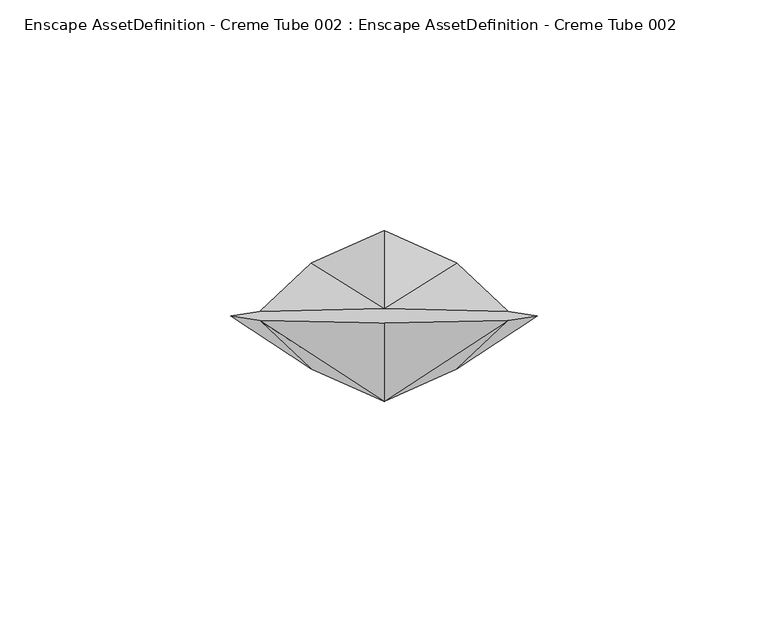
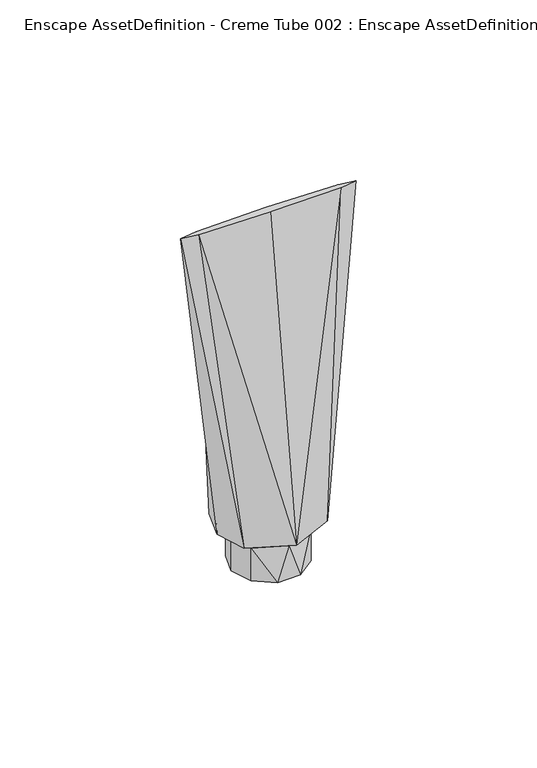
"""IFC4 building model written with IfcOpenShell, lengths in millimetres: geographic element geometry, Enscape AssetDefinition - Creme Tube 002 : Enscape AssetDefinition - Creme Tube 002."""

from ifc_helpers import new_model, si_unit, origin, place, context, project, spatial, triangles, source, transform, mapped, element, save


def enscape_assetdefinition_creme_tube_002_enscape_c31c35f7(model_context):
    return source(origin(), model_context, "Body", "Tessellation", [
        triangles([(15.7944597, 11.475091, 16.4672657), (14.1496439, 0.0, 0.0), (14.1496439, 0.0, 13.1869824), (19.5227364, 0.0, 16.4672657), (26.9179018, 0.970791, 139.6788379), (15.7944597, -11.475091, 16.4672657), (33.2723559, 0.0, 139.6788379), (11.4474469, -8.3171744, 13.1869824), (0.0, -18.567393, 16.4672657), (26.9179018, -0.970791, 139.6788379), (0.0, 1.571234, 139.6788379), (0.0, -1.571234, 139.6788379), (-26.9179018, -0.970791, 139.6788379), (-26.9179018, 0.970791, 139.6788379), (-15.7944597, 11.475091, 16.4672657), (-33.2723559, 0.0, 139.6788379), (-15.7944597, -11.475091, 16.4672657), (-19.5227364, 0.0, 16.4672657), (-14.1496439, 0.0, 13.1869824), (-11.4474469, 8.3171744, 13.1869824), (-11.4474469, 8.3171744, 0.0), (-14.1496439, 0.0, 0.0), (0.0, 18.567393, 16.4672657), (0.0, 13.4573238, 13.1869824), (-11.4474469, -8.3171744, 0.0), (-4.3726247, -13.4573238, 0.0), (-4.3726247, 13.4573238, 0.0), (11.4474469, 8.3171744, 0.0), (4.3726247, 13.4573238, 0.0), (11.4474469, -8.3171744, 0.0), (4.3726247, -13.4573238, 0.0), (0.0, -13.4573238, 13.1869824), (-11.4474469, -8.3171744, 13.1869824), (11.4474469, 8.3171744, 13.1869824)], [[23, 1, 34], [33, 25, 26], [9, 17, 33], [26, 32, 33], [33, 32, 9], [32, 26, 31], [8, 32, 31], [9, 32, 8], [30, 31, 26], [31, 30, 8], [8, 30, 2], [30, 26, 28], [2, 30, 28], [34, 28, 29], [29, 24, 34], [34, 24, 23], [27, 29, 28], [24, 29, 27], [26, 22, 28], [22, 27, 28], [26, 25, 22], [22, 25, 33], [22, 21, 27], [27, 21, 20], [20, 24, 27], [23, 24, 20], [33, 19, 22], [21, 22, 19], [19, 20, 21], [20, 15, 23], [15, 20, 19], [18, 19, 33], [33, 17, 18], [19, 18, 15], [16, 18, 17], [17, 13, 16], [13, 17, 9], [14, 16, 13], [14, 15, 18], [18, 16, 14], [11, 23, 15], [15, 14, 11], [1, 23, 11], [14, 13, 12], [12, 11, 14], [9, 12, 13], [10, 12, 9], [12, 10, 5], [5, 11, 12], [11, 5, 1], [10, 7, 5], [7, 10, 6], [9, 6, 10], [8, 6, 9], [6, 4, 7], [5, 7, 4], [4, 1, 5], [4, 6, 8], [2, 3, 8], [28, 34, 3], [3, 2, 28], [8, 3, 4], [1, 4, 3], [3, 34, 1]]),
    ])


if __name__ == "__main__":
    model = new_model("IFC4")
    model_context = context("Model", 3, world=origin())
    ifc_project = project(units=[si_unit("LENGTHUNIT", "METRE", prefix="MILLI")], contexts=[model_context])
    site = spatial("IfcSite", under=ifc_project)
    building = spatial("IfcBuilding", under=site)
    placement = place(None, origin())
    enscape_assetdefinition_creme_tube_002_enscape_shape = enscape_assetdefinition_creme_tube_002_enscape_c31c35f7(model_context)
    element("IfcGeographicElement", 1, ObjectType="Enscape AssetDefinition - Creme Tube 002 : Enscape AssetDefinition - Creme Tube 002", at=placement, inside=building, context=model_context, shape_type="MappedRepresentation", body=[
        mapped(enscape_assetdefinition_creme_tube_002_enscape_shape, transform((0.0, 0.0, 0.0), x_axis=(1.0, 0.0, 0.0), y_axis=(0.0, 1.0, 0.0), z_axis=(0.0, 0.0, 1.0))),
    ])
    save(model, "model.ifc")
